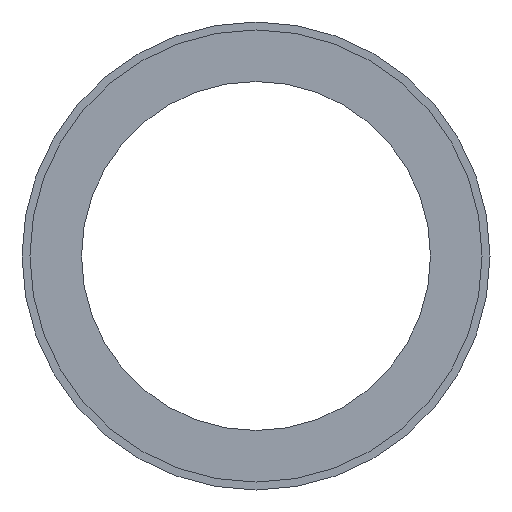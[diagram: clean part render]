
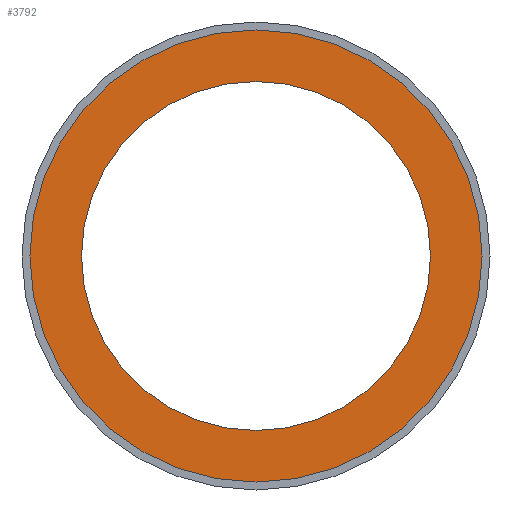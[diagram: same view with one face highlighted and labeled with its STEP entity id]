
A CAD part, front view. The second image highlights one B-rep face of the part: STEP entity #3792.
In plain terms, the highlighted planar face has unit normal (0, -1, 0).
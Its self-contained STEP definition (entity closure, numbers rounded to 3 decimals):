
#121 = EDGE_LOOP ( 'NONE', ( #4769, #5062 ) ) ;
#123 = AXIS2_PLACEMENT_3D ( 'NONE', #3583, #287, #1499 ) ;
#282 = FACE_OUTER_BOUND ( 'NONE', #5241, .T. ) ;
#287 = DIRECTION ( 'NONE',  ( 0., -1., 0. ) ) ;
#346 = DIRECTION ( 'NONE',  ( 0., 0., -1. ) ) ;
#350 = AXIS2_PLACEMENT_3D ( 'NONE', #4652, #960, #5063 ) ;
#373 = DIRECTION ( 'NONE',  ( 0., 0., -1. ) ) ;
#412 = CIRCLE ( 'NONE', #123, 110. ) ;
#792 = ORIENTED_EDGE ( 'NONE', *, *, #2168, .T. ) ;
#960 = DIRECTION ( 'NONE',  ( 0., -1., 0. ) ) ;
#964 = EDGE_CURVE ( 'NONE', #4512, #3147, #4101, .T. ) ;
#986 = CIRCLE ( 'NONE', #3434, 142.5 ) ;
#1331 = PLANE ( 'NONE',  #1399 ) ;
#1399 = AXIS2_PLACEMENT_3D ( 'NONE', #3428, #4625, #2580 ) ;
#1499 = DIRECTION ( 'NONE',  ( 0., 0., -1. ) ) ;
#1864 = CARTESIAN_POINT ( 'NONE',  ( 0., -37.5, -142.5 ) ) ;
#1986 = CARTESIAN_POINT ( 'NONE',  ( 0., -37.5, 110. ) ) ;
#2030 = VERTEX_POINT ( 'NONE', #1864 ) ;
#2109 = AXIS2_PLACEMENT_3D ( 'NONE', #2450, #2853, #373 ) ;
#2168 = EDGE_CURVE ( 'NONE', #2030, #2209, #986, .T. ) ;
#2209 = VERTEX_POINT ( 'NONE', #4970 ) ;
#2450 = CARTESIAN_POINT ( 'NONE',  ( 0., -37.5, 0. ) ) ;
#2580 = DIRECTION ( 'NONE',  ( 0., 0., 1. ) ) ;
#2853 = DIRECTION ( 'NONE',  ( 0., -1., 0. ) ) ;
#3013 = CARTESIAN_POINT ( 'NONE',  ( 0., -37.5, -110. ) ) ;
#3147 = VERTEX_POINT ( 'NONE', #3013 ) ;
#3358 = EDGE_CURVE ( 'NONE', #3147, #4512, #412, .T. ) ;
#3428 = CARTESIAN_POINT ( 'NONE',  ( 0., -37.5, 110. ) ) ;
#3434 = AXIS2_PLACEMENT_3D ( 'NONE', #4477, #5369, #346 ) ;
#3583 = CARTESIAN_POINT ( 'NONE',  ( 0., -37.5, 0. ) ) ;
#3792 = ADVANCED_FACE ( 'NONE', ( #3987, #282 ), #1331, .F. ) ;
#3804 = EDGE_CURVE ( 'NONE', #2209, #2030, #4691, .T. ) ;
#3987 = FACE_BOUND ( 'NONE', #121, .T. ) ;
#4101 = CIRCLE ( 'NONE', #2109, 110. ) ;
#4477 = CARTESIAN_POINT ( 'NONE',  ( 0., -37.5, 0. ) ) ;
#4512 = VERTEX_POINT ( 'NONE', #1986 ) ;
#4625 = DIRECTION ( 'NONE',  ( 0., 1., 0. ) ) ;
#4652 = CARTESIAN_POINT ( 'NONE',  ( 0., -37.5, 0. ) ) ;
#4691 = CIRCLE ( 'NONE', #350, 142.5 ) ;
#4769 = ORIENTED_EDGE ( 'NONE', *, *, #3358, .F. ) ;
#4970 = CARTESIAN_POINT ( 'NONE',  ( 0., -37.5, 142.5 ) ) ;
#5038 = ORIENTED_EDGE ( 'NONE', *, *, #3804, .T. ) ;
#5062 = ORIENTED_EDGE ( 'NONE', *, *, #964, .F. ) ;
#5063 = DIRECTION ( 'NONE',  ( 0., 0., -1. ) ) ;
#5241 = EDGE_LOOP ( 'NONE', ( #792, #5038 ) ) ;
#5369 = DIRECTION ( 'NONE',  ( 0., -1., 0. ) ) ;
